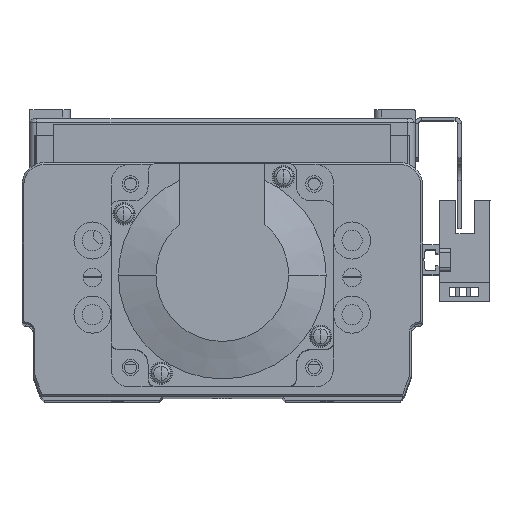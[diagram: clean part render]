
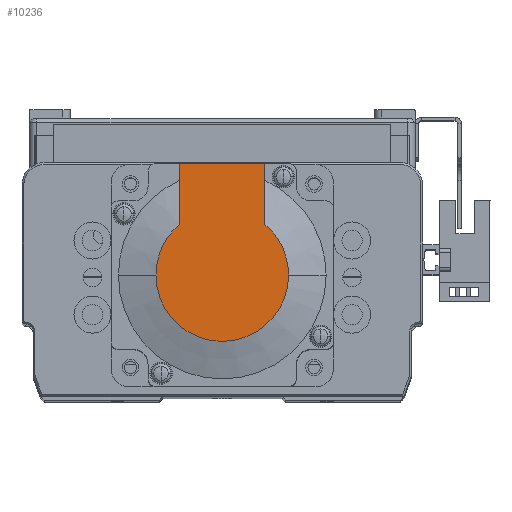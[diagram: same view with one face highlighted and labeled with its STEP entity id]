
A CAD part, top view. The second image highlights one B-rep face of the part: STEP entity #10236.
In plain terms, the highlighted planar face has unit normal (0, 0, 1) as drawn and (-1, 0, 0) by its records, which use the part's own axes.
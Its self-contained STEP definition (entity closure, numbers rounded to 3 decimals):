
#9965 = ORIENTED_EDGE ( 'NONE', *, *, #51521, .T. ) ;
#9971 = ORIENTED_EDGE ( 'NONE', *, *, #51197, .T. ) ;
#9972 = ORIENTED_EDGE ( 'NONE', *, *, #51311, .T. ) ;
#9997 = ORIENTED_EDGE ( 'NONE', *, *, #51578, .F. ) ;
#10045 = ORIENTED_EDGE ( 'NONE', *, *, #51538, .T. ) ;
#10059 = ORIENTED_EDGE ( 'NONE', *, *, #51633, .F. ) ;
#10236 = ADVANCED_FACE ( 'NONE', ( #36762 ), #17432, .T. ) ;
#12522 = VERTEX_POINT ( 'NONE', #29400 ) ;
#12525 = VERTEX_POINT ( 'NONE', #29404 ) ;
#12614 = VERTEX_POINT ( 'NONE', #29491 ) ;
#12660 = VERTEX_POINT ( 'NONE', #29530 ) ;
#12733 = VERTEX_POINT ( 'NONE', #29590 ) ;
#12761 = VERTEX_POINT ( 'NONE', #29624 ) ;
#14758 = AXIS2_PLACEMENT_3D ( 'NONE', #17454, #17433, #17434 ) ;
#16533 = EDGE_LOOP ( 'NONE', ( #9965, #10045, #9971, #9972, #10059, #9997 ) ) ;
#17432 = PLANE ( 'NONE',  #14758 ) ;
#17433 = DIRECTION ( 'NONE',  ( -1., 0., 0. ) ) ;
#17434 = DIRECTION ( 'NONE',  ( 0., 0., 1. ) ) ;
#17454 = CARTESIAN_POINT ( 'NONE',  ( -99., -8.941, 0. ) ) ;
#28869 = CIRCLE ( 'NONE', #34096, 17.881 ) ;
#29400 = CARTESIAN_POINT ( 'NONE',  ( -99., 13.735, 11.45 ) ) ;
#29404 = CARTESIAN_POINT ( 'NONE',  ( -99., 0., 17.881 ) ) ;
#29491 = CARTESIAN_POINT ( 'NONE',  ( -99., 0., -17.881 ) ) ;
#29530 = CARTESIAN_POINT ( 'NONE',  ( -99., 13.735, -11.45 ) ) ;
#29590 = CARTESIAN_POINT ( 'NONE',  ( -99., 30., -11.45 ) ) ;
#29624 = CARTESIAN_POINT ( 'NONE',  ( -99., 30., 11.45 ) ) ;
#34096 = AXIS2_PLACEMENT_3D ( 'NONE', #34886, #34924, #34942 ) ;
#34221 = AXIS2_PLACEMENT_3D ( 'NONE', #39722, #39738, #39743 ) ;
#34282 = AXIS2_PLACEMENT_3D ( 'NONE', #35523, #35525, #35528 ) ;
#34886 = CARTESIAN_POINT ( 'NONE',  ( -99., 0., 0. ) ) ;
#34924 = DIRECTION ( 'NONE',  ( -1., 0., 0. ) ) ;
#34942 = DIRECTION ( 'NONE',  ( 0., 0., -1. ) ) ;
#35523 = CARTESIAN_POINT ( 'NONE',  ( -99., 0., 0. ) ) ;
#35525 = DIRECTION ( 'NONE',  ( -1., 0., 0. ) ) ;
#35528 = DIRECTION ( 'NONE',  ( 0., 0., -1. ) ) ;
#36762 = FACE_OUTER_BOUND ( 'NONE', #16533, .T. ) ;
#38509 = CIRCLE ( 'NONE', #34282, 17.881 ) ;
#38910 = LINE ( 'NONE', #39676, #38916 ) ;
#38916 = VECTOR ( 'NONE', #39690, 1000. ) ;
#38968 = LINE ( 'NONE', #39867, #39020 ) ;
#38970 = CIRCLE ( 'NONE', #34221, 17.881 ) ;
#39020 = VECTOR ( 'NONE', #39834, 1000. ) ;
#39066 = LINE ( 'NONE', #39966, #39106 ) ;
#39106 = VECTOR ( 'NONE', #39969, 1000. ) ;
#39676 = CARTESIAN_POINT ( 'NONE',  ( -99., -8.941, -11.45 ) ) ;
#39690 = DIRECTION ( 'NONE',  ( 0., -1., 0. ) ) ;
#39722 = CARTESIAN_POINT ( 'NONE',  ( -99., 0., 0. ) ) ;
#39738 = DIRECTION ( 'NONE',  ( -1., 0., 0. ) ) ;
#39743 = DIRECTION ( 'NONE',  ( 0., 0., -1. ) ) ;
#39834 = DIRECTION ( 'NONE',  ( 0., 0., 1. ) ) ;
#39867 = CARTESIAN_POINT ( 'NONE',  ( -99., 30., 25. ) ) ;
#39966 = CARTESIAN_POINT ( 'NONE',  ( -99., 0., 11.45 ) ) ;
#39969 = DIRECTION ( 'NONE',  ( 0., -1., 0. ) ) ;
#51197 = EDGE_CURVE ( 'NONE', #12614, #12525, #28869, .T. ) ;
#51311 = EDGE_CURVE ( 'NONE', #12525, #12522, #38509, .T. ) ;
#51521 = EDGE_CURVE ( 'NONE', #12733, #12660, #38910, .T. ) ;
#51538 = EDGE_CURVE ( 'NONE', #12660, #12614, #38970, .T. ) ;
#51578 = EDGE_CURVE ( 'NONE', #12733, #12761, #38968, .T. ) ;
#51633 = EDGE_CURVE ( 'NONE', #12761, #12522, #39066, .T. ) ;
